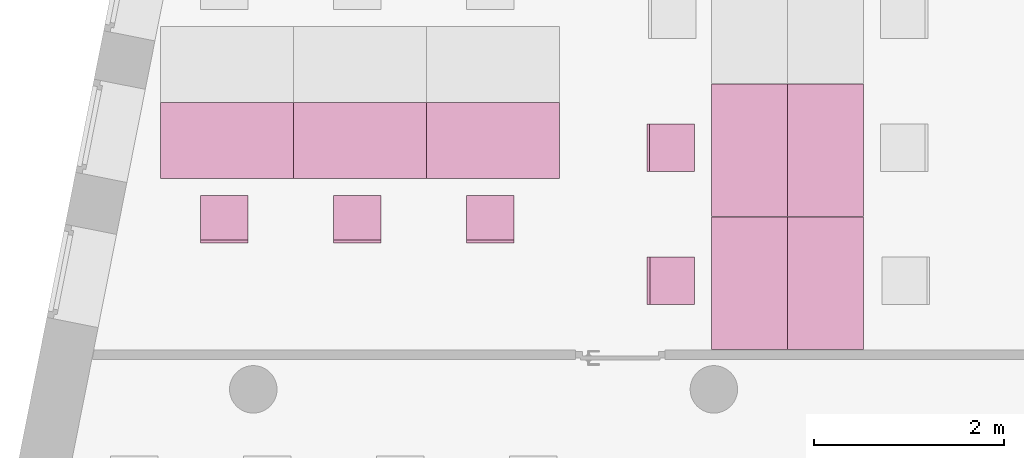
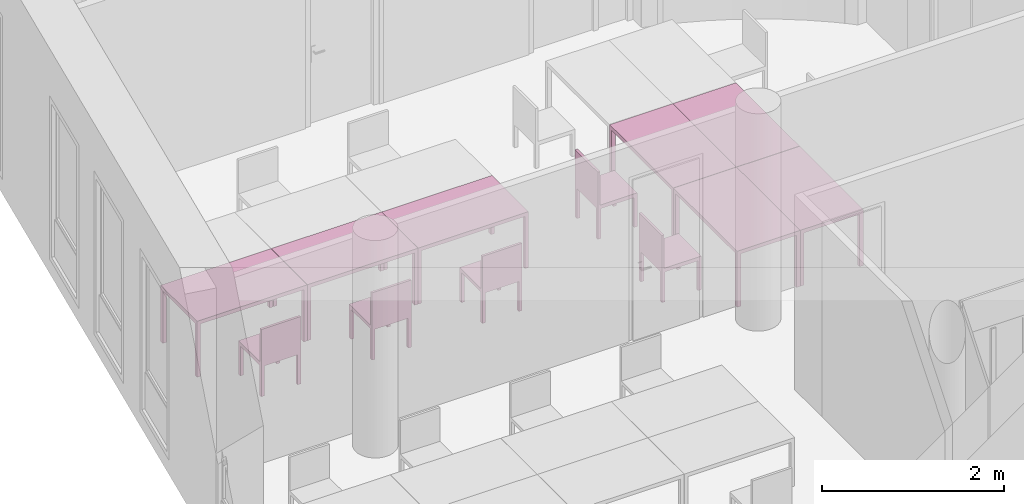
"""IFC4 building model written with IfcOpenShell, lengths in metres."""

from ifc_helpers import new_model, entity, si_unit, converted_unit, derived_unit, frame, origin, place, context, subcontext, project, spatial, faceted_brep, element, save


model = new_model("IFC4")

# Units and contexts
model_context = context("Model", 3, precision=1e-05, world=origin())
body_context = subcontext(model_context, "Body", "Model", "MODEL_VIEW")
ifc_project = project(units=[si_unit("LENGTHUNIT", "METRE"), si_unit("AREAUNIT", "SQUARE_METRE"), si_unit("VOLUMEUNIT", "CUBIC_METRE"), si_unit("MASSUNIT", "GRAM", prefix="KILO"), converted_unit("PLANEANGLEUNIT", "DEGREE", entity("IfcPlaneAngleMeasure", 0.0174532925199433), si_unit("PLANEANGLEUNIT", "RADIAN"), dimensions=[0, 0, 0, 0, 0, 0, 0]), derived_unit("THERMALTRANSMITTANCEUNIT", [(si_unit("POWERUNIT", "WATT"), 1), (si_unit("THERMODYNAMICTEMPERATUREUNIT", "KELVIN"), -1), (si_unit("LENGTHUNIT", "METRE"), -2)]), derived_unit("VOLUMETRICFLOWRATEUNIT", [(si_unit("LENGTHUNIT", "METRE"), 3), (converted_unit("TIMEUNIT", "hour", entity("IfcTimeMeasure", 3600.0), si_unit("TIMEUNIT", "SECOND"), dimensions=[0, 0, 1, 0, 0, 0, 0]), -1), (si_unit("LENGTHUNIT", "METRE"), -1)])], contexts=[model_context])

# Building, storeys
building_placement = place(None, origin())
building = spatial("IfcBuilding", under=ifc_project, at=building_placement, Name="HABITATGE PLURIFAMILIAR", CompositionType="ELEMENT")
storey_1_placement = place(building_placement, frame((0.0, 0.0, 9.26)))
storey_1 = spatial("IfcBuildingStorey", under=building, at=storey_1_placement, Name="PLANTA SEGONA", CompositionType="ELEMENT", Elevation=9.26)
storey_2_placement = place(storey_1_placement, frame((0.0, 0.0, 6.25)))
storey_2 = spatial("IfcBuildingStorey", under=storey_1, at=storey_2_placement, Name="NOU", CompositionType="PARTIAL")

# Furniture
furniture_1_placement = place(storey_2_placement, frame((400.01082241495, 20.0193217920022, -6.3499999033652)))
element("IfcFurniture", 1, at=furniture_1_placement, inside=storey_2, Name="Taula 140X80_P2", context=body_context, shape_type="Brep", body=[
    faceted_brep([(0.04375, 0.750069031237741, 0.0), (0.04375, 0.800069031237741, 0.0), (0.0, 0.800069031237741, 0.0), (0.0, 0.750069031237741, 0.0), (0.04375, 0.800069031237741, 0.7), (0.04375, 0.750069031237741, 0.7), (0.0, 0.750069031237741, 0.7), (0.0, 0.800069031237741, 0.7)], [[[0, 1, 2, 3]], [[4, 5, 6, 7]], [[1, 0, 5, 4]], [[2, 1, 4, 7]], [[3, 2, 7, 6]], [[0, 3, 6, 5]]], orient=[[False], [False], [False], [False], [False], [False]]),
    faceted_brep([(0.04375, 0.0, 0.0), (0.04375, 0.05, 0.0), (0.0, 0.05, 0.0), (0.0, 0.0, 0.0), (0.04375, 0.05, 0.7), (0.04375, 0.0, 0.7), (0.0, 0.0, 0.7), (0.0, 0.05, 0.7)], [[[0, 1, 2, 3]], [[4, 5, 6, 7]], [[1, 0, 5, 4]], [[2, 1, 4, 7]], [[3, 2, 7, 6]], [[0, 3, 6, 5]]], orient=[[False], [False], [False], [False], [False], [False]]),
    faceted_brep([(1.39732768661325, 0.0, 0.7), (1.39732768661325, 0.800069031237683, 0.7), (0.0, 0.800069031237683, 0.7), (0.0, 0.0, 0.7), (1.39732768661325, 0.800069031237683, 0.75), (1.39732768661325, 0.0, 0.75), (0.0, 0.0, 0.75), (0.0, 0.800069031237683, 0.75)], [[[0, 1, 2, 3]], [[4, 5, 6, 7]], [[1, 0, 5, 4]], [[2, 1, 4, 7]], [[3, 2, 7, 6]], [[0, 3, 6, 5]]], orient=[[False], [False], [False], [False], [False], [False]]),
    faceted_brep([(1.39732768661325, 0.750069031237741, 0.0), (1.39732768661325, 0.800069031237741, 0.0), (1.35357768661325, 0.800069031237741, 0.0), (1.35357768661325, 0.750069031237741, 0.0), (1.39732768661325, 0.800069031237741, 0.7), (1.39732768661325, 0.750069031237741, 0.7), (1.35357768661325, 0.750069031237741, 0.7), (1.35357768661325, 0.800069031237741, 0.7)], [[[0, 1, 2, 3]], [[4, 5, 6, 7]], [[1, 0, 5, 4]], [[2, 1, 4, 7]], [[3, 2, 7, 6]], [[0, 3, 6, 5]]], orient=[[False], [False], [False], [False], [False], [False]]),
    faceted_brep([(1.39732768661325, 0.0, 0.0), (1.39732768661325, 0.05, 0.0), (1.35357768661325, 0.05, 0.0), (1.35357768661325, 0.0, 0.0), (1.39732768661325, 0.05, 0.7), (1.39732768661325, 0.0, 0.7), (1.35357768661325, 0.0, 0.7), (1.35357768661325, 0.05, 0.7)], [[[0, 1, 2, 3]], [[4, 5, 6, 7]], [[1, 0, 5, 4]], [[2, 1, 4, 7]], [[3, 2, 7, 6]], [[0, 3, 6, 5]]], orient=[[False], [False], [False], [False], [False], [False]]),
])
furniture_2_placement = place(storey_2_placement, frame((401.412001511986, 20.0193217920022, -6.3499999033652)))
element("IfcFurniture", 2, at=furniture_2_placement, inside=storey_2, Name="Taula 140X80_P2", context=body_context, shape_type="Brep", body=[
    faceted_brep([(0.04375, 0.750069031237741, 0.0), (0.04375, 0.800069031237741, 0.0), (0.0, 0.800069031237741, 0.0), (0.0, 0.750069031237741, 0.0), (0.04375, 0.800069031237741, 0.7), (0.04375, 0.750069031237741, 0.7), (0.0, 0.750069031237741, 0.7), (0.0, 0.800069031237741, 0.7)], [[[0, 1, 2, 3]], [[4, 5, 6, 7]], [[1, 0, 5, 4]], [[2, 1, 4, 7]], [[3, 2, 7, 6]], [[0, 3, 6, 5]]], orient=[[False], [False], [False], [False], [False], [False]]),
    faceted_brep([(0.04375, 0.0, 0.0), (0.04375, 0.05, 0.0), (0.0, 0.05, 0.0), (0.0, 0.0, 0.0), (0.04375, 0.05, 0.7), (0.04375, 0.0, 0.7), (0.0, 0.0, 0.7), (0.0, 0.05, 0.7)], [[[0, 1, 2, 3]], [[4, 5, 6, 7]], [[1, 0, 5, 4]], [[2, 1, 4, 7]], [[3, 2, 7, 6]], [[0, 3, 6, 5]]], orient=[[False], [False], [False], [False], [False], [False]]),
    faceted_brep([(1.39732768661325, 0.0, 0.7), (1.39732768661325, 0.800069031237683, 0.7), (0.0, 0.800069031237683, 0.7), (0.0, 0.0, 0.7), (1.39732768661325, 0.800069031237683, 0.75), (1.39732768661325, 0.0, 0.75), (0.0, 0.0, 0.75), (0.0, 0.800069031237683, 0.75)], [[[0, 1, 2, 3]], [[4, 5, 6, 7]], [[1, 0, 5, 4]], [[2, 1, 4, 7]], [[3, 2, 7, 6]], [[0, 3, 6, 5]]], orient=[[False], [False], [False], [False], [False], [False]]),
    faceted_brep([(1.39732768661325, 0.750069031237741, 0.0), (1.39732768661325, 0.800069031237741, 0.0), (1.35357768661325, 0.800069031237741, 0.0), (1.35357768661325, 0.750069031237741, 0.0), (1.39732768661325, 0.800069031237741, 0.7), (1.39732768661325, 0.750069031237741, 0.7), (1.35357768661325, 0.750069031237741, 0.7), (1.35357768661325, 0.800069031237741, 0.7)], [[[0, 1, 2, 3]], [[4, 5, 6, 7]], [[1, 0, 5, 4]], [[2, 1, 4, 7]], [[3, 2, 7, 6]], [[0, 3, 6, 5]]], orient=[[False], [False], [False], [False], [False], [False]]),
    faceted_brep([(1.39732768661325, 0.0, 0.0), (1.39732768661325, 0.05, 0.0), (1.35357768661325, 0.05, 0.0), (1.35357768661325, 0.0, 0.0), (1.39732768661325, 0.05, 0.7), (1.39732768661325, 0.0, 0.7), (1.35357768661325, 0.0, 0.7), (1.35357768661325, 0.05, 0.7)], [[[0, 1, 2, 3]], [[4, 5, 6, 7]], [[1, 0, 5, 4]], [[2, 1, 4, 7]], [[3, 2, 7, 6]], [[0, 3, 6, 5]]], orient=[[False], [False], [False], [False], [False], [False]]),
])
furniture_3_placement = place(storey_2_placement, frame((402.812001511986, 20.0193217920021, -6.3499999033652)))
element("IfcFurniture", 3, at=furniture_3_placement, inside=storey_2, Name="Taula 140X80_P2", context=body_context, shape_type="Brep", body=[
    faceted_brep([(0.04375, 0.750069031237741, 0.0), (0.04375, 0.800069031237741, 0.0), (0.0, 0.800069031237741, 0.0), (0.0, 0.750069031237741, 0.0), (0.04375, 0.800069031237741, 0.7), (0.04375, 0.750069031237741, 0.7), (0.0, 0.750069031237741, 0.7), (0.0, 0.800069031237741, 0.7)], [[[0, 1, 2, 3]], [[4, 5, 6, 7]], [[1, 0, 5, 4]], [[2, 1, 4, 7]], [[3, 2, 7, 6]], [[0, 3, 6, 5]]], orient=[[False], [False], [False], [False], [False], [False]]),
    faceted_brep([(0.04375, 0.0, 0.0), (0.04375, 0.05, 0.0), (0.0, 0.05, 0.0), (0.0, 0.0, 0.0), (0.04375, 0.05, 0.7), (0.04375, 0.0, 0.7), (0.0, 0.0, 0.7), (0.0, 0.05, 0.7)], [[[0, 1, 2, 3]], [[4, 5, 6, 7]], [[1, 0, 5, 4]], [[2, 1, 4, 7]], [[3, 2, 7, 6]], [[0, 3, 6, 5]]], orient=[[False], [False], [False], [False], [False], [False]]),
    faceted_brep([(1.39732768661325, 0.0, 0.7), (1.39732768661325, 0.800069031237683, 0.7), (0.0, 0.800069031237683, 0.7), (0.0, 0.0, 0.7), (1.39732768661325, 0.800069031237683, 0.75), (1.39732768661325, 0.0, 0.75), (0.0, 0.0, 0.75), (0.0, 0.800069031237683, 0.75)], [[[0, 1, 2, 3]], [[4, 5, 6, 7]], [[1, 0, 5, 4]], [[2, 1, 4, 7]], [[3, 2, 7, 6]], [[0, 3, 6, 5]]], orient=[[False], [False], [False], [False], [False], [False]]),
    faceted_brep([(1.39732768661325, 0.750069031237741, 0.0), (1.39732768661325, 0.800069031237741, 0.0), (1.35357768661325, 0.800069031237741, 0.0), (1.35357768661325, 0.750069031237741, 0.0), (1.39732768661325, 0.800069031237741, 0.7), (1.39732768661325, 0.750069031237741, 0.7), (1.35357768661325, 0.750069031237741, 0.7), (1.35357768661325, 0.800069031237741, 0.7)], [[[0, 1, 2, 3]], [[4, 5, 6, 7]], [[1, 0, 5, 4]], [[2, 1, 4, 7]], [[3, 2, 7, 6]], [[0, 3, 6, 5]]], orient=[[False], [False], [False], [False], [False], [False]]),
    faceted_brep([(1.39732768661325, 0.0, 0.0), (1.39732768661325, 0.05, 0.0), (1.35357768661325, 0.05, 0.0), (1.35357768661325, 0.0, 0.0), (1.39732768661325, 0.05, 0.7), (1.39732768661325, 0.0, 0.7), (1.35357768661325, 0.0, 0.7), (1.35357768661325, 0.05, 0.7)], [[[0, 1, 2, 3]], [[4, 5, 6, 7]], [[1, 0, 5, 4]], [[2, 1, 4, 7]], [[3, 2, 7, 6]], [[0, 3, 6, 5]]], orient=[[False], [False], [False], [False], [False], [False]]),
])
furniture_4_placement = place(storey_2_placement, frame((405.811552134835, 19.6178259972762, -6.3499999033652)))
element("IfcFurniture", 4, at=furniture_4_placement, inside=storey_2, Name="Taula 140X80_P2", context=body_context, shape_type="Brep", body=[
    faceted_brep([(0.750069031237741, 1.35357768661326, 0.0), (0.800069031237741, 1.35357768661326, 0.0), (0.800069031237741, 1.39732768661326, 0.0), (0.750069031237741, 1.39732768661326, 0.0), (0.800069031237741, 1.35357768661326, 0.7), (0.750069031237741, 1.35357768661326, 0.7), (0.750069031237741, 1.39732768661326, 0.7), (0.800069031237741, 1.39732768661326, 0.7)], [[[0, 1, 2, 3]], [[4, 5, 6, 7]], [[1, 0, 5, 4]], [[2, 1, 4, 7]], [[3, 2, 7, 6]], [[0, 3, 6, 5]]], orient=[[False], [False], [False], [False], [False], [False]]),
    faceted_brep([(0.0, 1.35357768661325, 0.0), (0.05, 1.35357768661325, 0.0), (0.05, 1.39732768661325, 0.0), (0.0, 1.39732768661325, 0.0), (0.05, 1.35357768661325, 0.7), (0.0, 1.35357768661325, 0.7), (0.0, 1.39732768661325, 0.7), (0.05, 1.39732768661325, 0.7)], [[[0, 1, 2, 3]], [[4, 5, 6, 7]], [[1, 0, 5, 4]], [[2, 1, 4, 7]], [[3, 2, 7, 6]], [[0, 3, 6, 5]]], orient=[[False], [False], [False], [False], [False], [False]]),
    faceted_brep([(0.0, 0.0, 0.7), (0.800069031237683, 0.0, 0.7), (0.800069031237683, 1.39732768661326, 0.7), (0.0, 1.39732768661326, 0.7), (0.800069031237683, 0.0, 0.75), (0.0, 0.0, 0.75), (0.0, 1.39732768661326, 0.75), (0.800069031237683, 1.39732768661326, 0.75)], [[[0, 1, 2, 3]], [[4, 5, 6, 7]], [[1, 0, 5, 4]], [[2, 1, 4, 7]], [[3, 2, 7, 6]], [[0, 3, 6, 5]]], orient=[[False], [False], [False], [False], [False], [False]]),
    faceted_brep([(0.750069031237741, 0.0, 0.0), (0.800069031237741, 0.0, 0.0), (0.800069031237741, 0.0437500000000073, 0.0), (0.750069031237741, 0.0437500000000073, 0.0), (0.800069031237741, 0.0, 0.7), (0.750069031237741, 0.0, 0.7), (0.750069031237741, 0.0437500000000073, 0.7), (0.800069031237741, 0.0437500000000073, 0.7)], [[[0, 1, 2, 3]], [[4, 5, 6, 7]], [[1, 0, 5, 4]], [[2, 1, 4, 7]], [[3, 2, 7, 6]], [[0, 3, 6, 5]]], orient=[[False], [False], [False], [False], [False], [False]]),
    faceted_brep([(0.0, 0.0, 0.0), (0.05, 0.0, 0.0), (0.05, 0.04375, 0.0), (0.0, 0.04375, 0.0), (0.05, 0.0, 0.7), (0.0, 0.0, 0.7), (0.0, 0.04375, 0.7), (0.05, 0.04375, 0.7)], [[[0, 1, 2, 3]], [[4, 5, 6, 7]], [[1, 0, 5, 4]], [[2, 1, 4, 7]], [[3, 2, 7, 6]], [[0, 3, 6, 5]]], orient=[[False], [False], [False], [False], [False], [False]]),
])
furniture_5_placement = place(storey_2_placement, frame((406.611621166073, 19.6178259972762, -6.3499999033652)))
element("IfcFurniture", 5, at=furniture_5_placement, inside=storey_2, Name="Taula 140X80_P2", context=body_context, shape_type="Brep", body=[
    faceted_brep([(0.05, 1.35357768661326, 0.0), (0.05, 1.39732768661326, 0.0), (0.0, 1.39732768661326, 0.0), (0.0, 1.35357768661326, 0.0), (0.0, 1.35357768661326, 0.7), (0.0, 1.39732768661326, 0.7), (0.05, 1.39732768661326, 0.7), (0.05, 1.35357768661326, 0.7)], [[[0, 1, 2, 3]], [[4, 5, 6, 7]], [[3, 4, 7, 0]], [[2, 5, 4, 3]], [[1, 6, 5, 2]], [[0, 7, 6, 1]]], orient=[[False], [False], [False], [False], [False], [False]]),
    faceted_brep([(0.800069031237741, 1.35357768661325, 0.0), (0.800069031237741, 1.39732768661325, 0.0), (0.750069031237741, 1.39732768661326, 0.0), (0.750069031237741, 1.35357768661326, 0.0), (0.750069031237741, 1.35357768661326, 0.7), (0.750069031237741, 1.39732768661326, 0.7), (0.800069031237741, 1.39732768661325, 0.7), (0.800069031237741, 1.35357768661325, 0.7)], [[[0, 1, 2, 3]], [[4, 5, 6, 7]], [[3, 4, 7, 0]], [[2, 5, 4, 3]], [[1, 6, 5, 2]], [[0, 7, 6, 1]]], orient=[[False], [False], [False], [False], [False], [False]]),
    faceted_brep([(0.800069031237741, 0.0, 0.7), (0.800069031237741, 1.39732768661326, 0.7), (0.0, 1.39732768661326, 0.7), (0.0, 0.0, 0.7), (0.0, 0.0, 0.75), (0.0, 1.39732768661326, 0.75), (0.800069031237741, 1.39732768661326, 0.75), (0.800069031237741, 0.0, 0.75)], [[[0, 1, 2, 3]], [[4, 5, 6, 7]], [[3, 4, 7, 0]], [[2, 5, 4, 3]], [[1, 6, 5, 2]], [[0, 7, 6, 1]]], orient=[[False], [False], [False], [False], [False], [False]]),
    faceted_brep([(0.05, 0.0, 0.0), (0.05, 0.0437500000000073, 0.0), (0.0, 0.0437500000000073, 0.0), (0.0, 0.0, 0.0), (0.0, 0.0, 0.7), (0.0, 0.0437500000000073, 0.7), (0.05, 0.0437500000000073, 0.7), (0.05, 0.0, 0.7)], [[[0, 1, 2, 3]], [[4, 5, 6, 7]], [[3, 4, 7, 0]], [[2, 5, 4, 3]], [[1, 6, 5, 2]], [[0, 7, 6, 1]]], orient=[[False], [False], [False], [False], [False], [False]]),
    faceted_brep([(0.800069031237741, 0.0, 0.0), (0.800069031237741, 0.04375, 0.0), (0.750069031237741, 0.04375, 0.0), (0.750069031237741, 0.0, 0.0), (0.750069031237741, 0.0, 0.7), (0.750069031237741, 0.04375, 0.7), (0.800069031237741, 0.04375, 0.7), (0.800069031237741, 0.0, 0.7)], [[[0, 1, 2, 3]], [[4, 5, 6, 7]], [[3, 4, 7, 0]], [[2, 5, 4, 3]], [[1, 6, 5, 2]], [[0, 7, 6, 1]]], orient=[[False], [False], [False], [False], [False], [False]]),
])
furniture_6_placement = place(storey_2_placement, frame((405.811552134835, 18.2178259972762, -6.3499999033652)))
element("IfcFurniture", 6, at=furniture_6_placement, inside=storey_2, Name="Taula 140X80_P2", context=body_context, shape_type="Brep", body=[
    faceted_brep([(0.750069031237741, 1.35357768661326, 0.0), (0.800069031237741, 1.35357768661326, 0.0), (0.800069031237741, 1.39732768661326, 0.0), (0.750069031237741, 1.39732768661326, 0.0), (0.800069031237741, 1.35357768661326, 0.7), (0.750069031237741, 1.35357768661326, 0.7), (0.750069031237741, 1.39732768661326, 0.7), (0.800069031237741, 1.39732768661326, 0.7)], [[[0, 1, 2, 3]], [[4, 5, 6, 7]], [[1, 0, 5, 4]], [[2, 1, 4, 7]], [[3, 2, 7, 6]], [[0, 3, 6, 5]]], orient=[[False], [False], [False], [False], [False], [False]]),
    faceted_brep([(0.0, 1.35357768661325, 0.0), (0.05, 1.35357768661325, 0.0), (0.05, 1.39732768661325, 0.0), (0.0, 1.39732768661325, 0.0), (0.05, 1.35357768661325, 0.7), (0.0, 1.35357768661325, 0.7), (0.0, 1.39732768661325, 0.7), (0.05, 1.39732768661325, 0.7)], [[[0, 1, 2, 3]], [[4, 5, 6, 7]], [[1, 0, 5, 4]], [[2, 1, 4, 7]], [[3, 2, 7, 6]], [[0, 3, 6, 5]]], orient=[[False], [False], [False], [False], [False], [False]]),
    faceted_brep([(0.0, 0.0, 0.7), (0.800069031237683, 0.0, 0.7), (0.800069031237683, 1.39732768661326, 0.7), (0.0, 1.39732768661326, 0.7), (0.800069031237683, 0.0, 0.75), (0.0, 0.0, 0.75), (0.0, 1.39732768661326, 0.75), (0.800069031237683, 1.39732768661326, 0.75)], [[[0, 1, 2, 3]], [[4, 5, 6, 7]], [[1, 0, 5, 4]], [[2, 1, 4, 7]], [[3, 2, 7, 6]], [[0, 3, 6, 5]]], orient=[[False], [False], [False], [False], [False], [False]]),
    faceted_brep([(0.750069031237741, 0.0, 0.0), (0.800069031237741, 0.0, 0.0), (0.800069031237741, 0.0437500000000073, 0.0), (0.750069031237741, 0.0437500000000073, 0.0), (0.800069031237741, 0.0, 0.7), (0.750069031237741, 0.0, 0.7), (0.750069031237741, 0.0437500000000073, 0.7), (0.800069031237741, 0.0437500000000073, 0.7)], [[[0, 1, 2, 3]], [[4, 5, 6, 7]], [[1, 0, 5, 4]], [[2, 1, 4, 7]], [[3, 2, 7, 6]], [[0, 3, 6, 5]]], orient=[[False], [False], [False], [False], [False], [False]]),
    faceted_brep([(0.0, 0.0, 0.0), (0.05, 0.0, 0.0), (0.05, 0.04375, 0.0), (0.0, 0.04375, 0.0), (0.05, 0.0, 0.7), (0.0, 0.0, 0.7), (0.0, 0.04375, 0.7), (0.05, 0.04375, 0.7)], [[[0, 1, 2, 3]], [[4, 5, 6, 7]], [[1, 0, 5, 4]], [[2, 1, 4, 7]], [[3, 2, 7, 6]], [[0, 3, 6, 5]]], orient=[[False], [False], [False], [False], [False], [False]]),
])
furniture_7_placement = place(storey_2_placement, frame((406.611621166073, 18.2178259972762, -6.3499999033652)))
element("IfcFurniture", 7, at=furniture_7_placement, inside=storey_2, Name="Taula 140X80_P2", context=body_context, shape_type="Brep", body=[
    faceted_brep([(0.05, 1.35357768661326, 0.0), (0.05, 1.39732768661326, 0.0), (0.0, 1.39732768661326, 0.0), (0.0, 1.35357768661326, 0.0), (0.0, 1.35357768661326, 0.7), (0.0, 1.39732768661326, 0.7), (0.05, 1.39732768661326, 0.7), (0.05, 1.35357768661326, 0.7)], [[[0, 1, 2, 3]], [[4, 5, 6, 7]], [[3, 4, 7, 0]], [[2, 5, 4, 3]], [[1, 6, 5, 2]], [[0, 7, 6, 1]]], orient=[[False], [False], [False], [False], [False], [False]]),
    faceted_brep([(0.800069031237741, 1.35357768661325, 0.0), (0.800069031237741, 1.39732768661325, 0.0), (0.750069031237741, 1.39732768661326, 0.0), (0.750069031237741, 1.35357768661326, 0.0), (0.750069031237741, 1.35357768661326, 0.7), (0.750069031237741, 1.39732768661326, 0.7), (0.800069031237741, 1.39732768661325, 0.7), (0.800069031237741, 1.35357768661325, 0.7)], [[[0, 1, 2, 3]], [[4, 5, 6, 7]], [[3, 4, 7, 0]], [[2, 5, 4, 3]], [[1, 6, 5, 2]], [[0, 7, 6, 1]]], orient=[[False], [False], [False], [False], [False], [False]]),
    faceted_brep([(0.800069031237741, 0.0, 0.7), (0.800069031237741, 1.39732768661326, 0.7), (0.0, 1.39732768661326, 0.7), (0.0, 0.0, 0.7), (0.0, 0.0, 0.75), (0.0, 1.39732768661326, 0.75), (0.800069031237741, 1.39732768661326, 0.75), (0.800069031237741, 0.0, 0.75)], [[[0, 1, 2, 3]], [[4, 5, 6, 7]], [[3, 4, 7, 0]], [[2, 5, 4, 3]], [[1, 6, 5, 2]], [[0, 7, 6, 1]]], orient=[[False], [False], [False], [False], [False], [False]]),
    faceted_brep([(0.05, 0.0, 0.0), (0.05, 0.0437500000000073, 0.0), (0.0, 0.0437500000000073, 0.0), (0.0, 0.0, 0.0), (0.0, 0.0, 0.7), (0.0, 0.0437500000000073, 0.7), (0.05, 0.0437500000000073, 0.7), (0.05, 0.0, 0.7)], [[[0, 1, 2, 3]], [[4, 5, 6, 7]], [[3, 4, 7, 0]], [[2, 5, 4, 3]], [[1, 6, 5, 2]], [[0, 7, 6, 1]]], orient=[[False], [False], [False], [False], [False], [False]]),
    faceted_brep([(0.800069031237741, 0.0, 0.0), (0.800069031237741, 0.04375, 0.0), (0.750069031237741, 0.04375, 0.0), (0.750069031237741, 0.0, 0.0), (0.750069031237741, 0.0, 0.7), (0.750069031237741, 0.04375, 0.7), (0.800069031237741, 0.04375, 0.7), (0.800069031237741, 0.0, 0.7)], [[[0, 1, 2, 3]], [[4, 5, 6, 7]], [[3, 4, 7, 0]], [[2, 5, 4, 3]], [[1, 6, 5, 2]], [[0, 7, 6, 1]]], orient=[[False], [False], [False], [False], [False], [False]]),
])
furniture_8_placement = place(storey_2_placement, frame((400.432809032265, 19.3402059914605, -6.34632642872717)))
element("IfcFurniture", 8, at=furniture_8_placement, inside=storey_2, Name="Cadira d'Oficina_P2", context=body_context, shape_type="Brep", body=[
    faceted_brep([(0.5, 0.5, 0.4), (0.0, 0.5, 0.4), (0.0, 0.0, 0.4), (0.5, 0.0, 0.4), (0.5, 0.0, 0.45), (0.0, 0.0, 0.45), (0.0, 0.5, 0.45), (0.5, 0.5, 0.45)], [[[0, 1, 2, 3]], [[4, 5, 6, 7]], [[3, 4, 7, 0]], [[2, 5, 4, 3]], [[1, 6, 5, 2]], [[0, 7, 6, 1]]], orient=[[False], [False], [False], [False], [False], [False]]),
    faceted_brep([(0.0, 0.04, 0.0), (0.0, 0.0, 0.0), (0.04, 0.0, 0.0), (0.04, 0.04, 0.0), (0.04, 0.04, 0.4), (0.04, 0.0, 0.4), (0.0, 0.0, 0.4), (0.0, 0.04, 0.4)], [[[0, 1, 2, 3]], [[4, 5, 6, 7]], [[3, 4, 7, 0]], [[2, 5, 4, 3]], [[1, 6, 5, 2]], [[0, 7, 6, 1]]], orient=[[False], [False], [False], [False], [False], [False]]),
    faceted_brep([(0.0, 0.5, 0.0), (0.0, 0.46, 0.0), (0.04, 0.46, 0.0), (0.04, 0.5, 0.0), (0.04, 0.5, 0.4), (0.04, 0.46, 0.4), (0.0, 0.46, 0.4), (0.0, 0.5, 0.4)], [[[0, 1, 2, 3]], [[4, 5, 6, 7]], [[3, 4, 7, 0]], [[2, 5, 4, 3]], [[1, 6, 5, 2]], [[0, 7, 6, 1]]], orient=[[False], [False], [False], [False], [False], [False]]),
    faceted_brep([(0.46, 0.04, 0.0), (0.46, 0.0, 0.0), (0.5, 0.0, 0.0), (0.5, 0.04, 0.0), (0.5, 0.04, 0.4), (0.5, 0.0, 0.4), (0.46, 0.0, 0.4), (0.46, 0.04, 0.4)], [[[0, 1, 2, 3]], [[4, 5, 6, 7]], [[3, 4, 7, 0]], [[2, 5, 4, 3]], [[1, 6, 5, 2]], [[0, 7, 6, 1]]], orient=[[False], [False], [False], [False], [False], [False]]),
    faceted_brep([(0.46, 0.5, 0.0), (0.46, 0.46, 0.0), (0.5, 0.46, 0.0), (0.5, 0.5, 0.0), (0.5, 0.5, 0.4), (0.5, 0.46, 0.4), (0.46, 0.46, 0.4), (0.46, 0.5, 0.4)], [[[0, 1, 2, 3]], [[4, 5, 6, 7]], [[3, 4, 7, 0]], [[2, 5, 4, 3]], [[1, 6, 5, 2]], [[0, 7, 6, 1]]], orient=[[False], [False], [False], [False], [False], [False]]),
    faceted_brep([(0.0, 0.03, 0.45), (0.0, 0.0, 0.45), (0.5, 0.0, 0.45), (0.5, 0.03, 0.45), (0.5, 0.03, 0.9), (0.5, 0.0, 0.9), (0.0, 0.0, 0.9), (0.0, 0.03, 0.9)], [[[0, 1, 2, 3]], [[4, 5, 6, 7]], [[3, 4, 7, 0]], [[2, 5, 4, 3]], [[1, 6, 5, 2]], [[0, 7, 6, 1]]], orient=[[False], [False], [False], [False], [False], [False]]),
])
furniture_9_placement = place(storey_2_placement, frame((401.8339881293, 19.3402059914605, -6.34632642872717)))
element("IfcFurniture", 9, at=furniture_9_placement, inside=storey_2, Name="Cadira d'Oficina_P2", context=body_context, shape_type="Brep", body=[
    faceted_brep([(0.5, 0.5, 0.4), (0.0, 0.5, 0.4), (0.0, 0.0, 0.4), (0.5, 0.0, 0.4), (0.5, 0.0, 0.45), (0.0, 0.0, 0.45), (0.0, 0.5, 0.45), (0.5, 0.5, 0.45)], [[[0, 1, 2, 3]], [[4, 5, 6, 7]], [[3, 4, 7, 0]], [[2, 5, 4, 3]], [[1, 6, 5, 2]], [[0, 7, 6, 1]]], orient=[[False], [False], [False], [False], [False], [False]]),
    faceted_brep([(0.0, 0.04, 0.0), (0.0, 0.0, 0.0), (0.04, 0.0, 0.0), (0.04, 0.04, 0.0), (0.04, 0.04, 0.4), (0.04, 0.0, 0.4), (0.0, 0.0, 0.4), (0.0, 0.04, 0.4)], [[[0, 1, 2, 3]], [[4, 5, 6, 7]], [[3, 4, 7, 0]], [[2, 5, 4, 3]], [[1, 6, 5, 2]], [[0, 7, 6, 1]]], orient=[[False], [False], [False], [False], [False], [False]]),
    faceted_brep([(0.0, 0.5, 0.0), (0.0, 0.46, 0.0), (0.04, 0.46, 0.0), (0.04, 0.5, 0.0), (0.04, 0.5, 0.4), (0.04, 0.46, 0.4), (0.0, 0.46, 0.4), (0.0, 0.5, 0.4)], [[[0, 1, 2, 3]], [[4, 5, 6, 7]], [[3, 4, 7, 0]], [[2, 5, 4, 3]], [[1, 6, 5, 2]], [[0, 7, 6, 1]]], orient=[[False], [False], [False], [False], [False], [False]]),
    faceted_brep([(0.46, 0.04, 0.0), (0.46, 0.0, 0.0), (0.5, 0.0, 0.0), (0.5, 0.04, 0.0), (0.5, 0.04, 0.4), (0.5, 0.0, 0.4), (0.46, 0.0, 0.4), (0.46, 0.04, 0.4)], [[[0, 1, 2, 3]], [[4, 5, 6, 7]], [[3, 4, 7, 0]], [[2, 5, 4, 3]], [[1, 6, 5, 2]], [[0, 7, 6, 1]]], orient=[[False], [False], [False], [False], [False], [False]]),
    faceted_brep([(0.46, 0.5, 0.0), (0.46, 0.46, 0.0), (0.5, 0.46, 0.0), (0.5, 0.5, 0.0), (0.5, 0.5, 0.4), (0.5, 0.46, 0.4), (0.46, 0.46, 0.4), (0.46, 0.5, 0.4)], [[[0, 1, 2, 3]], [[4, 5, 6, 7]], [[3, 4, 7, 0]], [[2, 5, 4, 3]], [[1, 6, 5, 2]], [[0, 7, 6, 1]]], orient=[[False], [False], [False], [False], [False], [False]]),
    faceted_brep([(0.0, 0.03, 0.45), (0.0, 0.0, 0.45), (0.5, 0.0, 0.45), (0.5, 0.03, 0.45), (0.5, 0.03, 0.9), (0.5, 0.0, 0.9), (0.0, 0.0, 0.9), (0.0, 0.03, 0.9)], [[[0, 1, 2, 3]], [[4, 5, 6, 7]], [[3, 4, 7, 0]], [[2, 5, 4, 3]], [[1, 6, 5, 2]], [[0, 7, 6, 1]]], orient=[[False], [False], [False], [False], [False], [False]]),
])
furniture_10_placement = place(storey_2_placement, frame((403.2339881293, 19.3402059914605, -6.34632642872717)))
element("IfcFurniture", 10, at=furniture_10_placement, inside=storey_2, Name="Cadira d'Oficina_P2", context=body_context, shape_type="Brep", body=[
    faceted_brep([(0.5, 0.5, 0.4), (0.0, 0.5, 0.4), (0.0, 0.0, 0.4), (0.5, 0.0, 0.4), (0.5, 0.0, 0.45), (0.0, 0.0, 0.45), (0.0, 0.5, 0.45), (0.5, 0.5, 0.45)], [[[0, 1, 2, 3]], [[4, 5, 6, 7]], [[3, 4, 7, 0]], [[2, 5, 4, 3]], [[1, 6, 5, 2]], [[0, 7, 6, 1]]], orient=[[False], [False], [False], [False], [False], [False]]),
    faceted_brep([(0.0, 0.04, 0.0), (0.0, 0.0, 0.0), (0.04, 0.0, 0.0), (0.04, 0.04, 0.0), (0.04, 0.04, 0.4), (0.04, 0.0, 0.4), (0.0, 0.0, 0.4), (0.0, 0.04, 0.4)], [[[0, 1, 2, 3]], [[4, 5, 6, 7]], [[3, 4, 7, 0]], [[2, 5, 4, 3]], [[1, 6, 5, 2]], [[0, 7, 6, 1]]], orient=[[False], [False], [False], [False], [False], [False]]),
    faceted_brep([(0.0, 0.5, 0.0), (0.0, 0.46, 0.0), (0.04, 0.46, 0.0), (0.04, 0.5, 0.0), (0.04, 0.5, 0.4), (0.04, 0.46, 0.4), (0.0, 0.46, 0.4), (0.0, 0.5, 0.4)], [[[0, 1, 2, 3]], [[4, 5, 6, 7]], [[3, 4, 7, 0]], [[2, 5, 4, 3]], [[1, 6, 5, 2]], [[0, 7, 6, 1]]], orient=[[False], [False], [False], [False], [False], [False]]),
    faceted_brep([(0.46, 0.04, 0.0), (0.46, 0.0, 0.0), (0.5, 0.0, 0.0), (0.5, 0.04, 0.0), (0.5, 0.04, 0.4), (0.5, 0.0, 0.4), (0.46, 0.0, 0.4), (0.46, 0.04, 0.4)], [[[0, 1, 2, 3]], [[4, 5, 6, 7]], [[3, 4, 7, 0]], [[2, 5, 4, 3]], [[1, 6, 5, 2]], [[0, 7, 6, 1]]], orient=[[False], [False], [False], [False], [False], [False]]),
    faceted_brep([(0.46, 0.5, 0.0), (0.46, 0.46, 0.0), (0.5, 0.46, 0.0), (0.5, 0.5, 0.0), (0.5, 0.5, 0.4), (0.5, 0.46, 0.4), (0.46, 0.46, 0.4), (0.46, 0.5, 0.4)], [[[0, 1, 2, 3]], [[4, 5, 6, 7]], [[3, 4, 7, 0]], [[2, 5, 4, 3]], [[1, 6, 5, 2]], [[0, 7, 6, 1]]], orient=[[False], [False], [False], [False], [False], [False]]),
    faceted_brep([(0.0, 0.03, 0.45), (0.0, 0.0, 0.45), (0.5, 0.0, 0.45), (0.5, 0.03, 0.45), (0.5, 0.03, 0.9), (0.5, 0.0, 0.9), (0.0, 0.0, 0.9), (0.0, 0.03, 0.9)], [[[0, 1, 2, 3]], [[4, 5, 6, 7]], [[3, 4, 7, 0]], [[2, 5, 4, 3]], [[1, 6, 5, 2]], [[0, 7, 6, 1]]], orient=[[False], [False], [False], [False], [False], [False]]),
])
furniture_11_placement = place(storey_2_placement, frame((405.130480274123, 20.093167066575, -6.34112795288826)))
element("IfcFurniture", 11, at=furniture_11_placement, inside=storey_2, Name="Cadira d'Oficina_P2", context=body_context, shape_type="Brep", body=[
    faceted_brep([(0.5, 0.0, 0.4), (0.5, 0.5, 0.4), (0.0, 0.5, 0.4), (0.0, 0.0, 0.4), (0.0, 0.0, 0.45), (0.0, 0.5, 0.45), (0.5, 0.5, 0.45), (0.5, 0.0, 0.45)], [[[0, 1, 2, 3]], [[4, 5, 6, 7]], [[3, 4, 7, 0]], [[2, 5, 4, 3]], [[1, 6, 5, 2]], [[0, 7, 6, 1]]], orient=[[False], [False], [False], [False], [False], [False]]),
    faceted_brep([(0.04, 0.5, 0.0), (0.0, 0.5, 0.0), (0.0, 0.46, 0.0), (0.04, 0.46, 0.0), (0.04, 0.46, 0.4), (0.0, 0.46, 0.4), (0.0, 0.5, 0.4), (0.04, 0.5, 0.4)], [[[0, 1, 2, 3]], [[4, 5, 6, 7]], [[3, 4, 7, 0]], [[2, 5, 4, 3]], [[1, 6, 5, 2]], [[0, 7, 6, 1]]], orient=[[False], [False], [False], [False], [False], [False]]),
    faceted_brep([(0.5, 0.5, 0.0), (0.46, 0.5, 0.0), (0.46, 0.46, 0.0), (0.5, 0.46, 0.0), (0.5, 0.46, 0.4), (0.46, 0.46, 0.4), (0.46, 0.5, 0.4), (0.5, 0.5, 0.4)], [[[0, 1, 2, 3]], [[4, 5, 6, 7]], [[3, 4, 7, 0]], [[2, 5, 4, 3]], [[1, 6, 5, 2]], [[0, 7, 6, 1]]], orient=[[False], [False], [False], [False], [False], [False]]),
    faceted_brep([(0.04, 0.04, 0.0), (0.0, 0.04, 0.0), (0.0, 0.0, 0.0), (0.04, 0.0, 0.0), (0.04, 0.0, 0.4), (0.0, 0.0, 0.4), (0.0, 0.04, 0.4), (0.04, 0.04, 0.4)], [[[0, 1, 2, 3]], [[4, 5, 6, 7]], [[3, 4, 7, 0]], [[2, 5, 4, 3]], [[1, 6, 5, 2]], [[0, 7, 6, 1]]], orient=[[False], [False], [False], [False], [False], [False]]),
    faceted_brep([(0.5, 0.04, 0.0), (0.46, 0.04, 0.0), (0.46, 0.0, 0.0), (0.5, 0.0, 0.0), (0.5, 0.0, 0.4), (0.46, 0.0, 0.4), (0.46, 0.04, 0.4), (0.5, 0.04, 0.4)], [[[0, 1, 2, 3]], [[4, 5, 6, 7]], [[3, 4, 7, 0]], [[2, 5, 4, 3]], [[1, 6, 5, 2]], [[0, 7, 6, 1]]], orient=[[False], [False], [False], [False], [False], [False]]),
    faceted_brep([(0.03, 0.5, 0.45), (0.0, 0.5, 0.45), (0.0, 0.0, 0.45), (0.03, 0.0, 0.45), (0.03, 0.0, 0.9), (0.0, 0.0, 0.9), (0.0, 0.5, 0.9), (0.03, 0.5, 0.9)], [[[0, 1, 2, 3]], [[4, 5, 6, 7]], [[3, 4, 7, 0]], [[2, 5, 4, 3]], [[1, 6, 5, 2]], [[0, 7, 6, 1]]], orient=[[False], [False], [False], [False], [False], [False]]),
])
furniture_12_placement = place(storey_2_placement, frame((405.132436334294, 18.693167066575, -6.33973209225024)))
element("IfcFurniture", 12, at=furniture_12_placement, inside=storey_2, Name="Cadira d'Oficina_P2", context=body_context, shape_type="Brep", body=[
    faceted_brep([(0.5, 0.0, 0.4), (0.5, 0.5, 0.4), (0.0, 0.5, 0.4), (0.0, 0.0, 0.4), (0.0, 0.0, 0.45), (0.0, 0.5, 0.45), (0.5, 0.5, 0.45), (0.5, 0.0, 0.45)], [[[0, 1, 2, 3]], [[4, 5, 6, 7]], [[3, 4, 7, 0]], [[2, 5, 4, 3]], [[1, 6, 5, 2]], [[0, 7, 6, 1]]], orient=[[False], [False], [False], [False], [False], [False]]),
    faceted_brep([(0.04, 0.5, 0.0), (0.0, 0.5, 0.0), (0.0, 0.46, 0.0), (0.04, 0.46, 0.0), (0.04, 0.46, 0.4), (0.0, 0.46, 0.4), (0.0, 0.5, 0.4), (0.04, 0.5, 0.4)], [[[0, 1, 2, 3]], [[4, 5, 6, 7]], [[3, 4, 7, 0]], [[2, 5, 4, 3]], [[1, 6, 5, 2]], [[0, 7, 6, 1]]], orient=[[False], [False], [False], [False], [False], [False]]),
    faceted_brep([(0.5, 0.5, 0.0), (0.46, 0.5, 0.0), (0.46, 0.46, 0.0), (0.5, 0.46, 0.0), (0.5, 0.46, 0.4), (0.46, 0.46, 0.4), (0.46, 0.5, 0.4), (0.5, 0.5, 0.4)], [[[0, 1, 2, 3]], [[4, 5, 6, 7]], [[3, 4, 7, 0]], [[2, 5, 4, 3]], [[1, 6, 5, 2]], [[0, 7, 6, 1]]], orient=[[False], [False], [False], [False], [False], [False]]),
    faceted_brep([(0.04, 0.04, 0.0), (0.0, 0.04, 0.0), (0.0, 0.0, 0.0), (0.04, 0.0, 0.0), (0.04, 0.0, 0.4), (0.0, 0.0, 0.4), (0.0, 0.04, 0.4), (0.04, 0.04, 0.4)], [[[0, 1, 2, 3]], [[4, 5, 6, 7]], [[3, 4, 7, 0]], [[2, 5, 4, 3]], [[1, 6, 5, 2]], [[0, 7, 6, 1]]], orient=[[False], [False], [False], [False], [False], [False]]),
    faceted_brep([(0.5, 0.04, 0.0), (0.46, 0.04, 0.0), (0.46, 0.0, 0.0), (0.5, 0.0, 0.0), (0.5, 0.0, 0.4), (0.46, 0.0, 0.4), (0.46, 0.04, 0.4), (0.5, 0.04, 0.4)], [[[0, 1, 2, 3]], [[4, 5, 6, 7]], [[3, 4, 7, 0]], [[2, 5, 4, 3]], [[1, 6, 5, 2]], [[0, 7, 6, 1]]], orient=[[False], [False], [False], [False], [False], [False]]),
    faceted_brep([(0.03, 0.5, 0.45), (0.0, 0.5, 0.45), (0.0, 0.0, 0.45), (0.03, 0.0, 0.45), (0.03, 0.0, 0.9), (0.0, 0.0, 0.9), (0.0, 0.5, 0.9), (0.03, 0.5, 0.9)], [[[0, 1, 2, 3]], [[4, 5, 6, 7]], [[3, 4, 7, 0]], [[2, 5, 4, 3]], [[1, 6, 5, 2]], [[0, 7, 6, 1]]], orient=[[False], [False], [False], [False], [False], [False]]),
])

save(model, "model.ifc")
